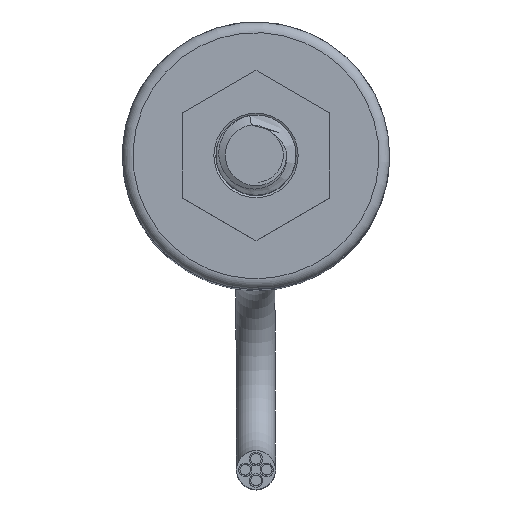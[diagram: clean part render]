
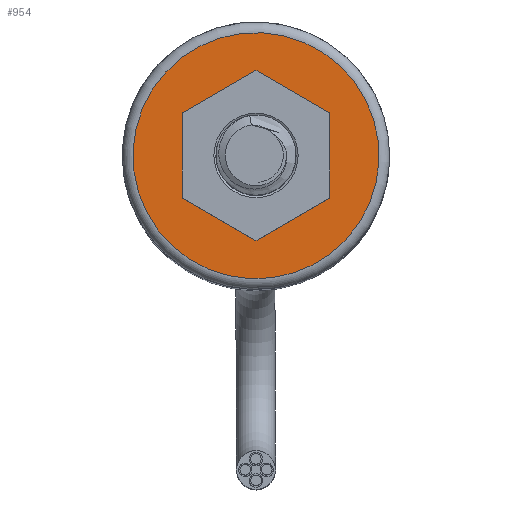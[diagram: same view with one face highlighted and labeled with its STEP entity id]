
A CAD part, top view. The second image highlights one B-rep face of the part: STEP entity #954.
In plain terms, the highlighted planar face has unit normal (0, 0, 1).
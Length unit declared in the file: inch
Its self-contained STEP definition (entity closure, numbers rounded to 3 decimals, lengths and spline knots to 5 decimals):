
#69=FACE_BOUND('',#190,.T.);
#87=PLANE('',#1193);
#123=FACE_OUTER_BOUND('',#189,.T.);
#189=EDGE_LOOP('',(#642));
#190=EDGE_LOOP('',(#643));
#367=CIRCLE('',#1188,0.23);
#371=CIRCLE('',#1194,0.11);
#424=VERTEX_POINT('',#1625);
#427=VERTEX_POINT('',#1635);
#506=EDGE_CURVE('',#424,#424,#367,.T.);
#511=EDGE_CURVE('',#427,#427,#371,.T.);
#642=ORIENTED_EDGE('',*,*,#506,.F.);
#643=ORIENTED_EDGE('',*,*,#511,.T.);
#954=ADVANCED_FACE('',(#123,#69),#87,.T.);
#1188=AXIS2_PLACEMENT_3D('',#1626,#1328,#1329);
#1193=AXIS2_PLACEMENT_3D('',#1634,#1339,#1340);
#1194=AXIS2_PLACEMENT_3D('',#1636,#1341,#1342);
#1328=DIRECTION('center_axis',(0.,0.,
-1.));
#1329=DIRECTION('ref_axis',(0.603,-0.797,0.));
#1339=DIRECTION('center_axis',(0.,0.,
1.));
#1340=DIRECTION('ref_axis',(-0.603,0.797,0.));
#1341=DIRECTION('center_axis',(0.,0.,
-1.));
#1342=DIRECTION('ref_axis',(-0.603,0.797,0.));
#1625=CARTESIAN_POINT('',(0.1388,-0.1834,0.03));
#1626=CARTESIAN_POINT('Origin',(0.,0.,
0.03));
#1634=CARTESIAN_POINT('Origin',(0.,0.,
0.03));
#1635=CARTESIAN_POINT('',(0.06638,-0.08771,0.03));
#1636=CARTESIAN_POINT('Origin',(0.,0.,
0.03));
